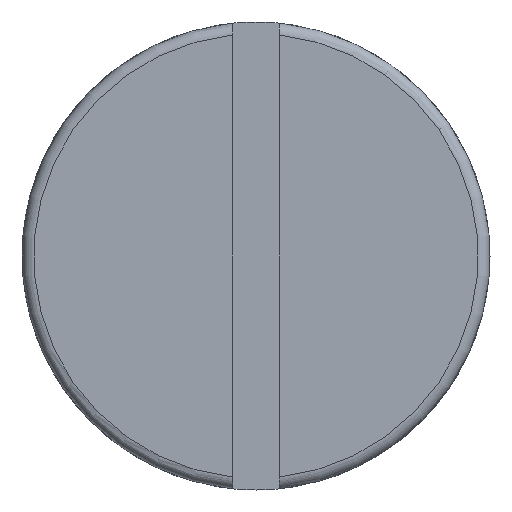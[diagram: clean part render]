
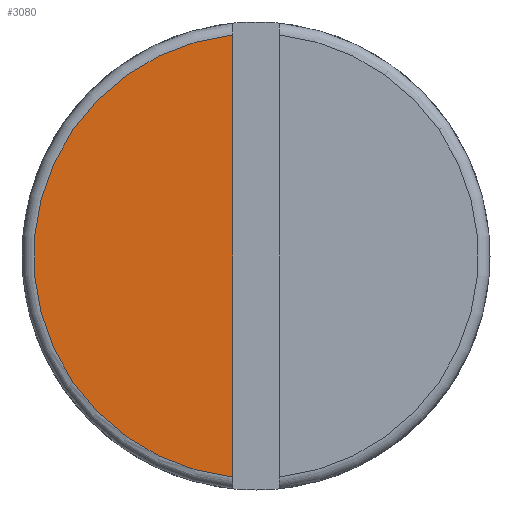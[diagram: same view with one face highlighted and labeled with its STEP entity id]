
A CAD part, front view. The second image highlights one B-rep face of the part: STEP entity #3080.
In plain terms, the highlighted planar face has unit normal (0, -1, 0).
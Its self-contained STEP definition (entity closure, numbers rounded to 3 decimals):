
#349 = CARTESIAN_POINT ( 'NONE',  ( 0., 0., 0. ) ) ;
#378 = AXIS2_PLACEMENT_3D ( 'NONE', #349, #2299, #3982 ) ;
#569 = EDGE_LOOP ( 'NONE', ( #2988, #3654 ) ) ;
#1074 = CARTESIAN_POINT ( 'NONE',  ( -1., 0., -9.447 ) ) ;
#1120 = AXIS2_PLACEMENT_3D ( 'NONE', #3512, #3189, #2876 ) ;
#1565 = CARTESIAN_POINT ( 'NONE',  ( -1., 0., 0. ) ) ;
#1829 = CARTESIAN_POINT ( 'NONE',  ( -1., 0., 9.447 ) ) ;
#2220 = PLANE ( 'NONE',  #1120 ) ;
#2232 = DIRECTION ( 'NONE',  ( 0., 0., 1. ) ) ;
#2299 = DIRECTION ( 'NONE',  ( 0., -1., 0. ) ) ;
#2318 = VERTEX_POINT ( 'NONE', #1074 ) ;
#2330 = VECTOR ( 'NONE', #2232, 1000. ) ;
#2556 = LINE ( 'NONE', #1565, #2330 ) ;
#2624 = VERTEX_POINT ( 'NONE', #1829 ) ;
#2876 = DIRECTION ( 'NONE',  ( 0., 0., 1. ) ) ;
#2988 = ORIENTED_EDGE ( 'NONE', *, *, #3452, .T. ) ;
#3080 = ADVANCED_FACE ( 'NONE', ( #3256 ), #2220, .F. ) ;
#3189 = DIRECTION ( 'NONE',  ( 0., 1., 0. ) ) ;
#3256 = FACE_OUTER_BOUND ( 'NONE', #569, .T. ) ;
#3305 = CIRCLE ( 'NONE', #378, 9.5 ) ;
#3452 = EDGE_CURVE ( 'NONE', #2318, #2624, #2556, .T. ) ;
#3512 = CARTESIAN_POINT ( 'NONE',  ( 0., 0., 0. ) ) ;
#3654 = ORIENTED_EDGE ( 'NONE', *, *, #3706, .T. ) ;
#3706 = EDGE_CURVE ( 'NONE', #2624, #2318, #3305, .T. ) ;
#3982 = DIRECTION ( 'NONE',  ( 0., 0., 1. ) ) ;
